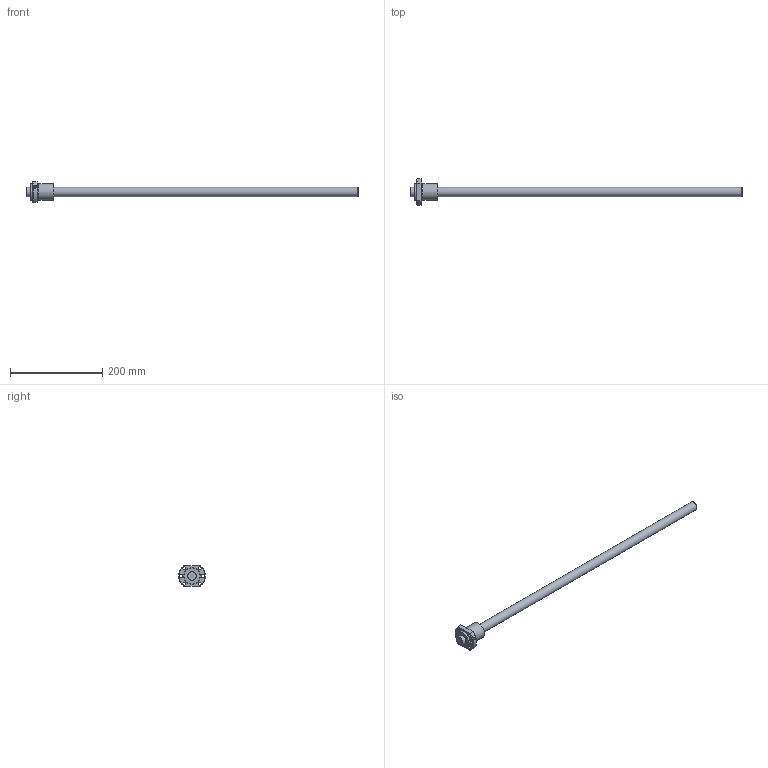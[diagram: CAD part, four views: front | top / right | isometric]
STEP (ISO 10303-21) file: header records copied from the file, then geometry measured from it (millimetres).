
FILE_DESCRIPTION(/* description */ ('STEP AP214'),/* implementation_level */ '2;1');
FILE_NAME(/* name */ 'EBB2005-3RRG0+720LC0-ebb2(650G000)-ebb2',/* time_stamp */ '2023-08-03T12:37:05+02:00',/* author */ ('License CC BY-ND 4.0'),/* organization */ ('CADENAS'),/* preprocessor_version */ 'ST-DEVELOPER v19.3',/* originating_system */ 'PARTsolutions',/* authorisation */ ' ');
FILE_SCHEMA (('AUTOMOTIVE_DESIGN {1 0 10303 214 3 1 1}'));
Length unit declared in the file: millimetre
Products named in the file (3): EBB2005-3RRG0+720LC0-ebb2(650G000)-ebb2; EBB 2005-3RR Nut2; EBB 2005-36500 Shaft2
Assembly tree (2 placements, depth 2):
  EBB2005-3RRG0+720LC0-ebb2(650G000)-ebb2
    EBB 2005-3RR Nut2
    EBB 2005-36500 Shaft2
Bounding box: 720 x 58 x 44 mm (x, y, z)
Volume: 271034.2 mm3; surface area: 60246.6 mm2
Topology: 2 solids, 2 shells, 32 faces, 72 edges, 47 vertices
Faces by surface type: cylinder 14, cone 9, plane 9
Full cylindrical faces by diameter (mm): 4.917 x1, 6.6 x6, 20 x2, 33.84 x1, 36 x2
Entity records: 935 total; most frequent: CARTESIAN_POINT 177, DIRECTION 148, ORIENTED_EDGE 106, AXIS2_PLACEMENT_3D 70, EDGE_LOOP 68, FACE_BOUND 68, EDGE_CURVE 53, VERTEX_POINT 45
